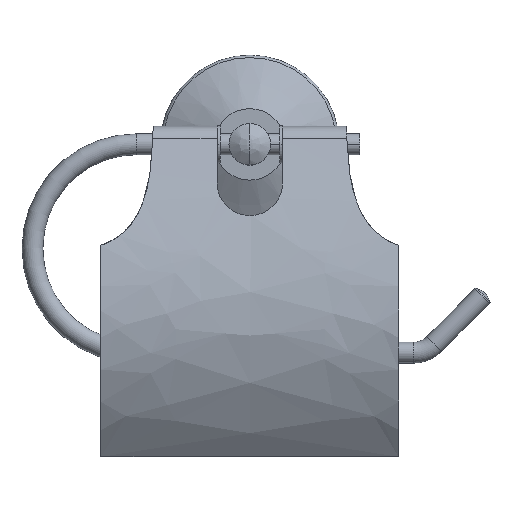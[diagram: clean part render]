
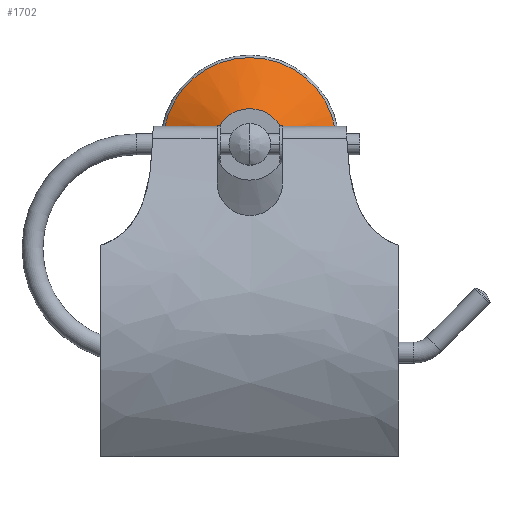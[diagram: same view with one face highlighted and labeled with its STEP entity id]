
A CAD part, top view. The second image highlights one B-rep face of the part: STEP entity #1702.
In plain terms, the highlighted conical face has half-angle 63.435 degrees and reference radius 12 mm.
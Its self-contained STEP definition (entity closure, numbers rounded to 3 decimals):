
#22 = CARTESIAN_POINT ( 'NONE',  ( 12., 0., 14. ) ) ;
#46 = ORIENTED_EDGE ( 'NONE', *, *, #1598, .T. ) ;
#47 = ORIENTED_EDGE ( 'NONE', *, *, #954, .F. ) ;
#175 = ORIENTED_EDGE ( 'NONE', *, *, #2572, .T. ) ;
#210 = DIRECTION ( 'NONE',  ( -0.894, 0., -0.447 ) ) ;
#216 = AXIS2_PLACEMENT_3D ( 'NONE', #2381, #304, #1446 ) ;
#295 = CIRCLE ( 'NONE', #1761, 12. ) ;
#304 = DIRECTION ( 'NONE',  ( 0., 0., -1. ) ) ;
#383 = EDGE_LOOP ( 'NONE', ( #47, #175, #46, #2689 ) ) ;
#438 = CARTESIAN_POINT ( 'NONE',  ( -12., 0., 14. ) ) ;
#621 = VECTOR ( 'NONE', #1692, 1000. ) ;
#774 = CARTESIAN_POINT ( 'NONE',  ( 0., 0., 14. ) ) ;
#889 = VERTEX_POINT ( 'NONE', #22 ) ;
#950 = CIRCLE ( 'NONE', #1641, 29.171 ) ;
#954 = EDGE_CURVE ( 'NONE', #889, #2184, #295, .T. ) ;
#988 = CARTESIAN_POINT ( 'NONE',  ( 12., 0., 14. ) ) ;
#1024 = DIRECTION ( 'NONE',  ( 0., 0., 1. ) ) ;
#1092 = LINE ( 'NONE', #988, #621 ) ;
#1269 = VERTEX_POINT ( 'NONE', #2411 ) ;
#1446 = DIRECTION ( 'NONE',  ( -1., 0., 0. ) ) ;
#1509 = FACE_OUTER_BOUND ( 'NONE', #383, .T. ) ;
#1598 = EDGE_CURVE ( 'NONE', #1269, #2783, #950, .T. ) ;
#1613 = DIRECTION ( 'NONE',  ( 0., 0., 1. ) ) ;
#1641 = AXIS2_PLACEMENT_3D ( 'NONE', #1870, #1613, #2301 ) ;
#1692 = DIRECTION ( 'NONE',  ( 0.894, 0., -0.447 ) ) ;
#1702 = ADVANCED_FACE ( 'NONE', ( #1509 ), #1751, .T. ) ;
#1751 = CONICAL_SURFACE ( 'NONE', #216, 12., 1.107 ) ;
#1761 = AXIS2_PLACEMENT_3D ( 'NONE', #774, #1024, #2601 ) ;
#1787 = CARTESIAN_POINT ( 'NONE',  ( -12., 0., 14. ) ) ;
#1870 = CARTESIAN_POINT ( 'NONE',  ( 0., 0., 5.415 ) ) ;
#1989 = CARTESIAN_POINT ( 'NONE',  ( -29.171, 0., 5.415 ) ) ;
#2184 = VERTEX_POINT ( 'NONE', #438 ) ;
#2207 = EDGE_CURVE ( 'NONE', #2184, #2783, #2388, .T. ) ;
#2301 = DIRECTION ( 'NONE',  ( 1., 0., 0. ) ) ;
#2381 = CARTESIAN_POINT ( 'NONE',  ( 0., 0., 14. ) ) ;
#2388 = LINE ( 'NONE', #1787, #2555 ) ;
#2411 = CARTESIAN_POINT ( 'NONE',  ( 29.171, 0., 5.415 ) ) ;
#2555 = VECTOR ( 'NONE', #210, 1000. ) ;
#2572 = EDGE_CURVE ( 'NONE', #889, #1269, #1092, .T. ) ;
#2601 = DIRECTION ( 'NONE',  ( 1., 0., 0. ) ) ;
#2689 = ORIENTED_EDGE ( 'NONE', *, *, #2207, .F. ) ;
#2783 = VERTEX_POINT ( 'NONE', #1989 ) ;
